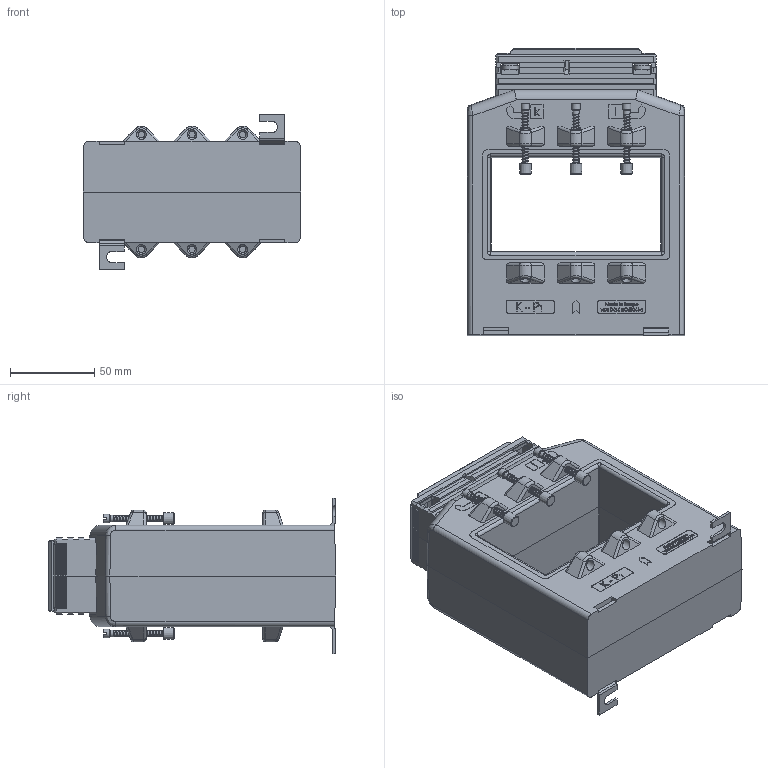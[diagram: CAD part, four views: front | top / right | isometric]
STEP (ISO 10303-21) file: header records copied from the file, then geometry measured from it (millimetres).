
FILE_DESCRIPTION (( 'STEP AP214' ), '1' );
FILE_NAME ('EASK105_6_01.STEP', '2013-03-27T07:41:33', ( 'User' ), ( 'EnDeCo GmbH' ), 'SwSTEP 2.0', 'SolidWorks 2012', '' );
FILE_SCHEMA (( 'AUTOMOTIVE_DESIGN' ));
Length unit declared in the file: millimetre
Products named in the file (10): Isolierschutzkappe; Plastite_Schraube_40_mit-Gewinde; Fusswinkel_1,5; ASK105_6_Gehäuseschale_Halbschale_01; Linsenschraube DIN 7985 4.8 VZ M 5 x 10; Verschlussklappe_38mm; ASK61.4-14_Plombierplatte; MBS_WN-003_04_Klemme_WN-003_02; ASK105_6_Gehäuseschale; EASK105_6_01
Assembly tree (25 placements, depth 2):
  EASK105_6_01
    ASK105_6_Gehäuseschale
    MBS_WN-003_04_Klemme_WN-003_02  x2
    ASK61.4-14_Plombierplatte
    Verschlussklappe_38mm  x2
    Linsenschraube DIN 7985 4.8 VZ M 5 x 10  x4
    ASK105_6_Gehäuseschale_Halbschale_01
    Fusswinkel_1,5  x2
    Plastite_Schraube_40_mit-Gewinde  x6
    Isolierschutzkappe  x6
Bounding box: 129 x 170 x 92 mm (x, y, z)
Volume: 856098.4 mm3; surface area: 140887.8 mm2
Topology: 25 solids, 25 shells, 1992 faces, 5064 edges, 3276 vertices
Faces by surface type: plane 1304, bspline 354, cylinder 250, cone 60, torus 16, sphere 8
Full cylindrical faces by diameter (mm): 2.95 x2, 3 x6, 3.75 x12, 3.8 x6, 4 x6, 4.1 x6, 4.2 x4, 5 x10, 5.8 x12, 10 x4
Entity records: 72403 total; most frequent: CARTESIAN_POINT 33300, ORIENTED_EDGE 8608, DIRECTION 6610, EDGE_CURVE 4304, LINE 3150, VECTOR 3150, VERTEX_POINT 2852, EDGE_LOOP 1928
